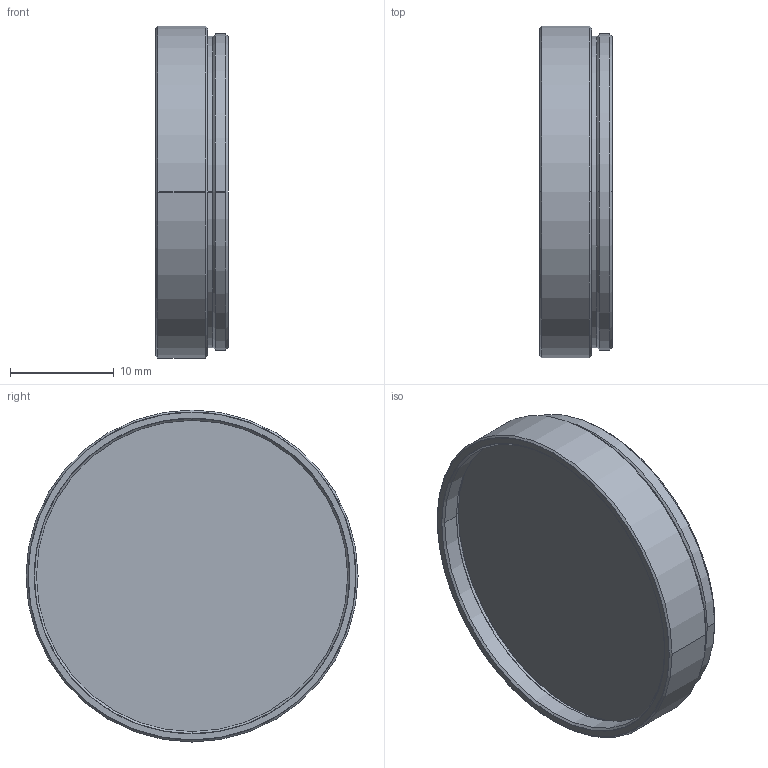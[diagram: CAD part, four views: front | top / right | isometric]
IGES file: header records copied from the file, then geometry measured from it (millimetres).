
Start section: SolidWorks IGES file using analytic representation for surfaces
Bounding box: 7 x 32 x 32 mm (x, y, z)
Surface area: 2551.7 mm2 (no closed solid volume)
Topology: 0 solids, 0 shells, 25 faces, 616 edges, 616 vertices
Faces by surface type: revolution 20, bspline 5
